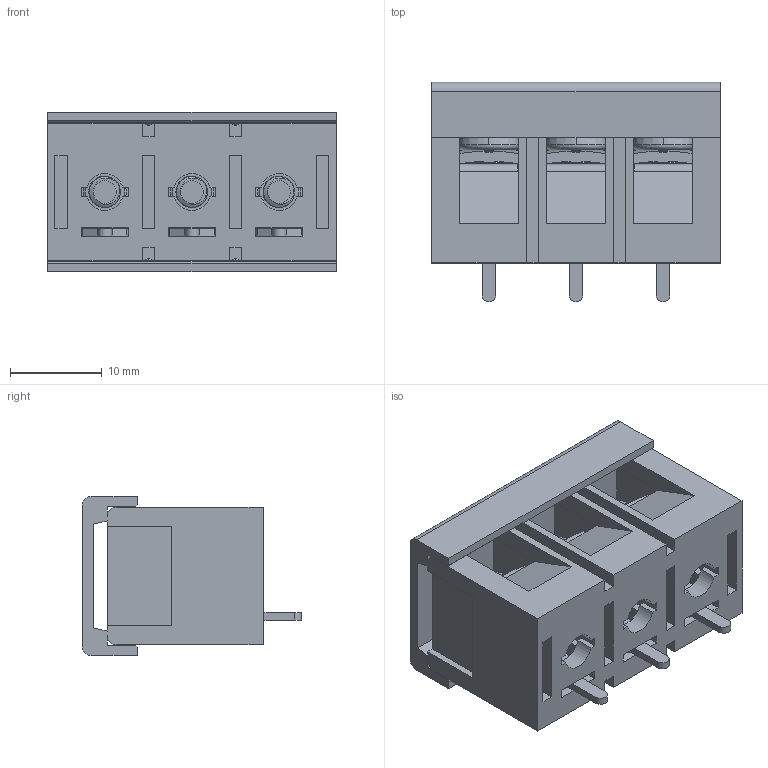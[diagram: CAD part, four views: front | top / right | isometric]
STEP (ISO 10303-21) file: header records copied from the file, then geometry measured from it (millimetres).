
FILE_DESCRIPTION((''),'2;1');
FILE_NAME('3PIN','2021-05-08T',('hanke'),(''),'CREO PARAMETRIC BY PTC INC, 2016260','CREO PARAMETRIC BY PTC INC, 2016260','');
FILE_SCHEMA(('CONFIG_CONTROL_DESIGN'));
Products named in the file (1): 3PIN
Bounding box: 31.5 x 23.9 x 17.4 mm (x, y, z)
Volume: 5597.6 mm3; surface area: 8225.5 mm2
Topology: 1 solids, 1 shells, 1113 faces, 3280 edges, 2132 vertices
Faces by surface type: plane 710, cylinder 269, bspline 92, cone 24, torus 18
Entity records: 50754 total; most frequent: CARTESIAN_POINT 22065, ORIENTED_EDGE 6548, DIRECTION 5270, EDGE_CURVE 3274, VERTEX_POINT 2132, VECTOR 2072, LINE 2072, AXIS2_PLACEMENT_3D 1599
